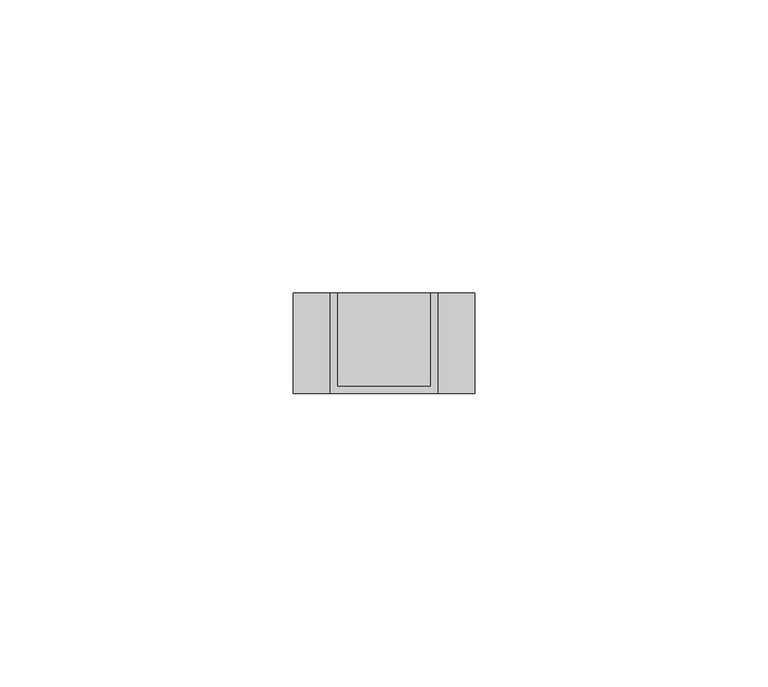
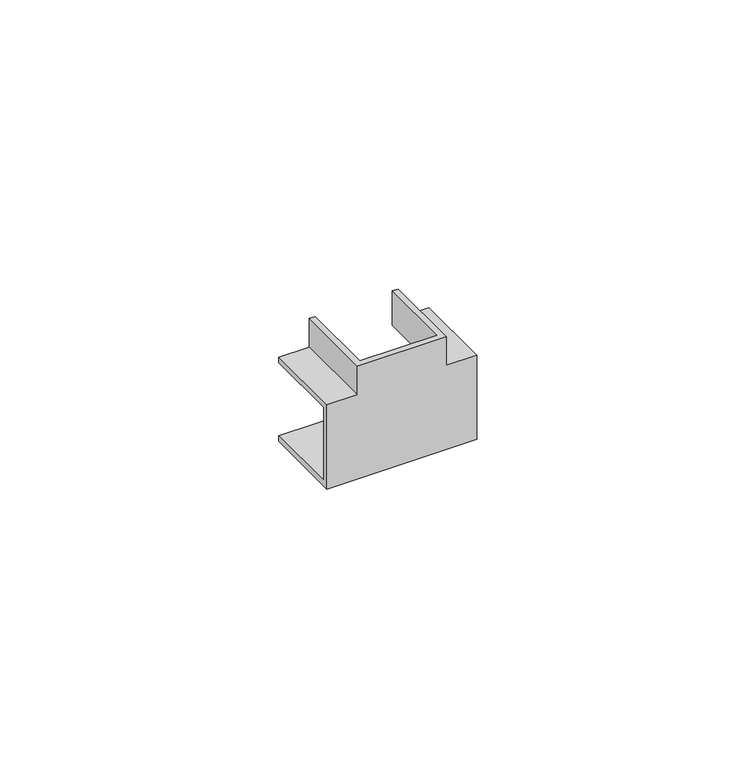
"""IFC4 building model written with IfcOpenShell, lengths in millimetres: proxy geometry, Угол_Т-образный КМТ : Угол Т-образный КМТ 16х16."""

from ifc_helpers import new_model, si_unit, origin, place, context, project, spatial, faceted_brep, source, transform, mapped, element, save


def generic_models_c71bb332(model_context):
    return source(origin(), model_context, "Body", "Brep", [
        faceted_brep([(-9.2, -17.2, 9.2), (-15.5, -17.2, 9.2), (-15.5, -17.2, -9.2), (15.5, -17.2, -9.2), (15.5, -17.2, 9.2), (9.2, -17.2, 9.2), (9.2, -17.2, 15.5), (-9.2, -17.2, 15.5), (-9.2, 0.0, 9.2), (-9.2, 0.0, 15.5), (-8.0, 0.0, 15.5), (-8.0, 0.0, 8.0), (-15.5, 0.0, 8.0), (-15.5, 0.0, 9.2), (9.2, 0.0, 15.5), (9.2, 0.0, 9.2), (15.5, 0.0, 9.2), (15.5, 0.0, 8.0), (8.0, 0.0, 8.0), (8.0, 0.0, 15.5), (15.5, 0.0, -9.2), (-15.5, 0.0, -9.2), (-15.5, 0.0, -8.0), (-8.0, 0.0, -8.0), (8.0, 0.0, -8.0), (15.5, 0.0, -8.0), (-15.5, -16.0, 8.0), (-15.5, -16.0, -8.0), (15.5, -16.0, -8.0), (15.5, -16.0, 8.0), (8.0, -16.0, 15.5), (-8.0, -16.0, 15.5), (-8.0, -16.0, 8.0), (8.0, -16.0, 8.0)], [[[0, 1, 2, 3, 4, 5, 6, 7]], [[8, 9, 10, 11, 12, 13]], [[14, 15, 16, 17, 18, 19]], [[20, 21, 22, 23, 24, 25]], [[1, 0, 8, 13]], [[2, 1, 13, 12, 26, 27, 22, 21]], [[3, 2, 21, 20]], [[4, 3, 20, 25, 28, 29, 17, 16]], [[5, 4, 16, 15]], [[6, 5, 15, 14]], [[7, 6, 14, 19, 30, 31, 10, 9]], [[0, 7, 9, 8]], [[27, 26, 32, 31, 30, 33, 29, 28]], [[22, 27, 28, 25, 24, 23]], [[26, 12, 11, 32]], [[17, 29, 33, 18]], [[33, 30, 19, 18]], [[31, 32, 11, 10]]]),
    ])


if __name__ == "__main__":
    model = new_model("IFC4")
    model_context = context("Model", 3, world=origin())
    ifc_project = project(units=[si_unit("LENGTHUNIT", "METRE", prefix="MILLI")], contexts=[model_context])
    site = spatial("IfcSite", under=ifc_project)
    building = spatial("IfcBuilding", under=site)
    placement = place(None, origin())
    generic_models_shape = generic_models_c71bb332(model_context)
    element("IfcBuildingElementProxy", 1, Name="Угол_Т-образный КМТ : Угол Т-образный КМТ 16х16", ObjectType="Угол_Т-образный КМТ : Угол Т-образный КМТ 16х16", at=placement, inside=building, context=model_context, shape_type="MappedRepresentation", body=[
        mapped(generic_models_shape, transform((0.0, 0.0, 0.0), x_axis=(1.0, 0.0, 0.0), y_axis=(0.0, 1.0, 0.0), z_axis=(0.0, 0.0, 1.0))),
    ])
    save(model, "model.ifc")
